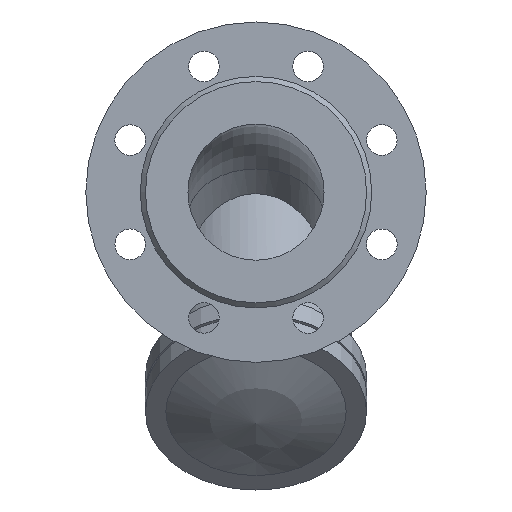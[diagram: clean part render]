
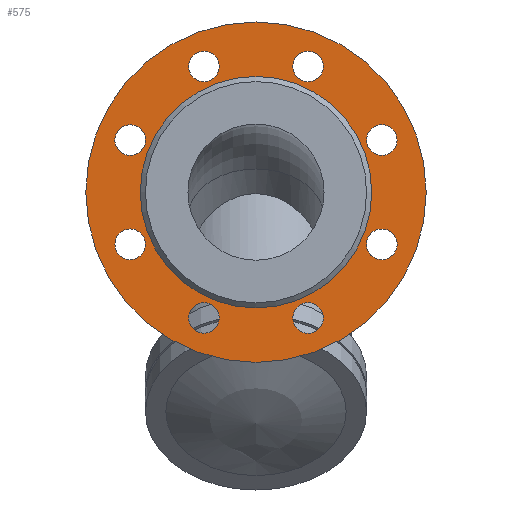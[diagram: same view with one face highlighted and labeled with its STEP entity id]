
A CAD part, front view. The second image highlights one B-rep face of the part: STEP entity #575.
In plain terms, the highlighted planar face has unit normal (0, -1, 0).
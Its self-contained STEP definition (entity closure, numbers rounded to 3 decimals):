
#575=ADVANCED_FACE('',(#1234,#1236,#1238,#1240,#1242,#1244,#1246,#1248,#1250,#1252),
#1254,.T.);
#1234=FACE_BOUND('',#1235,.T.);
#1235=EDGE_LOOP('',(#1638));
#1236=FACE_BOUND('',#1237,.T.);
#1237=EDGE_LOOP('',(#1639));
#1238=FACE_BOUND('',#1239,.T.);
#1239=EDGE_LOOP('',(#1640));
#1240=FACE_BOUND('',#1241,.T.);
#1241=EDGE_LOOP('',(#1641));
#1242=FACE_BOUND('',#1243,.T.);
#1243=EDGE_LOOP('',(#1642));
#1244=FACE_BOUND('',#1245,.T.);
#1245=EDGE_LOOP('',(#1643));
#1246=FACE_BOUND('',#1247,.T.);
#1247=EDGE_LOOP('',(#1644));
#1248=FACE_BOUND('',#1249,.T.);
#1249=EDGE_LOOP('',(#1645));
#1250=FACE_BOUND('',#1251,.T.);
#1251=EDGE_LOOP('',(#1646));
#1252=FACE_BOUND('',#1253,.T.);
#1253=EDGE_LOOP('',(#1647));
#1254=PLANE('',#1255);
#1255=AXIS2_PLACEMENT_3D('',#1256,#1257,#1258);
#1256=CARTESIAN_POINT('',(0.,-152.,0.));
#1257=DIRECTION('',(0.,-1.,0.));
#1258=DIRECTION('',(0.,0.,1.));
#1638=ORIENTED_EDGE('',*,*,#1788,.F.);
#1639=ORIENTED_EDGE('',*,*,#1796,.T.);
#1640=ORIENTED_EDGE('',*,*,#1795,.T.);
#1641=ORIENTED_EDGE('',*,*,#1794,.T.);
#1642=ORIENTED_EDGE('',*,*,#1793,.T.);
#1643=ORIENTED_EDGE('',*,*,#1792,.T.);
#1644=ORIENTED_EDGE('',*,*,#1791,.T.);
#1645=ORIENTED_EDGE('',*,*,#1790,.T.);
#1646=ORIENTED_EDGE('',*,*,#1807,.T.);
#1647=ORIENTED_EDGE('',*,*,#1789,.T.);
#1788=EDGE_CURVE('',#2000,#2000,#2001,.T.);
#1789=EDGE_CURVE('',#2002,#2002,#2003,.F.);
#1790=EDGE_CURVE('',#2004,#2004,#2005,.F.);
#1791=EDGE_CURVE('',#2006,#2006,#2007,.F.);
#1792=EDGE_CURVE('',#2008,#2008,#2009,.F.);
#1793=EDGE_CURVE('',#2010,#2010,#2011,.F.);
#1794=EDGE_CURVE('',#2012,#2012,#2013,.F.);
#1795=EDGE_CURVE('',#2014,#2014,#2015,.F.);
#1796=EDGE_CURVE('',#2016,#2016,#2017,.F.);
#1807=EDGE_CURVE('',#2038,#2038,#2039,.T.);
#2000=VERTEX_POINT('',#3328);
#2001=CIRCLE('',#3329,100.);
#2002=VERTEX_POINT('',#3333);
#2003=CIRCLE('',#3334,9.);
#2004=VERTEX_POINT('',#3338);
#2005=CIRCLE('',#3339,9.);
#2006=VERTEX_POINT('',#3343);
#2007=CIRCLE('',#3344,9.);
#2008=VERTEX_POINT('',#3348);
#2009=CIRCLE('',#3349,9.);
#2010=VERTEX_POINT('',#3353);
#2011=CIRCLE('',#3354,9.);
#2012=VERTEX_POINT('',#3358);
#2013=CIRCLE('',#3359,9.);
#2014=VERTEX_POINT('',#3363);
#2015=CIRCLE('',#3364,9.);
#2016=VERTEX_POINT('',#3368);
#2017=CIRCLE('',#3369,9.);
#2038=VERTEX_POINT('',#3423);
#2039=CIRCLE('',#3424,68.);
#3328=CARTESIAN_POINT('',(0.,-152.,100.));
#3329=AXIS2_PLACEMENT_3D('',#3330,#3331,#3332);
#3330=CARTESIAN_POINT('',(0.,-152.,0.));
#3331=DIRECTION('',(0.,1.,0.));
#3332=DIRECTION('',(0.,0.,1.));
#3333=CARTESIAN_POINT('',(-21.615,-152.,73.91));
#3334=AXIS2_PLACEMENT_3D('',#3335,#3336,#3337);
#3335=CARTESIAN_POINT('',(-30.615,-152.,73.91));
#3336=DIRECTION('',(0.,-1.,0.));
#3337=DIRECTION('',(1.,0.,0.));
#3338=CARTESIAN_POINT('',(-67.546,-152.,36.979));
#3339=AXIS2_PLACEMENT_3D('',#3340,#3341,#3342);
#3340=CARTESIAN_POINT('',(-73.91,-152.,30.615));
#3341=DIRECTION('',(0.,-1.,0.));
#3342=DIRECTION('',(0.707,0.,0.707));
#3343=CARTESIAN_POINT('',(-73.91,-152.,-21.615));
#3344=AXIS2_PLACEMENT_3D('',#3345,#3346,#3347);
#3345=CARTESIAN_POINT('',(-73.91,-152.,-30.615));
#3346=DIRECTION('',(0.,-1.,0.));
#3347=DIRECTION('',(0.,0.,1.));
#3348=CARTESIAN_POINT('',(-36.979,-152.,-67.546));
#3349=AXIS2_PLACEMENT_3D('',#3350,#3351,#3352);
#3350=CARTESIAN_POINT('',(-30.615,-152.,-73.91));
#3351=DIRECTION('',(0.,-1.,0.));
#3352=DIRECTION('',(-0.707,0.,0.707));
#3353=CARTESIAN_POINT('',(21.615,-152.,-73.91));
#3354=AXIS2_PLACEMENT_3D('',#3355,#3356,#3357);
#3355=CARTESIAN_POINT('',(30.615,-152.,-73.91));
#3356=DIRECTION('',(0.,-1.,0.));
#3357=DIRECTION('',(-1.,0.,0.));
#3358=CARTESIAN_POINT('',(67.546,-152.,-36.979));
#3359=AXIS2_PLACEMENT_3D('',#3360,#3361,#3362);
#3360=CARTESIAN_POINT('',(73.91,-152.,-30.615));
#3361=DIRECTION('',(0.,-1.,0.));
#3362=DIRECTION('',(-0.707,0.,-0.707));
#3363=CARTESIAN_POINT('',(73.91,-152.,21.615));
#3364=AXIS2_PLACEMENT_3D('',#3365,#3366,#3367);
#3365=CARTESIAN_POINT('',(73.91,-152.,30.615));
#3366=DIRECTION('',(0.,-1.,0.));
#3367=DIRECTION('',(0.,0.,-1.));
#3368=CARTESIAN_POINT('',(36.979,-152.,67.546));
#3369=AXIS2_PLACEMENT_3D('',#3370,#3371,#3372);
#3370=CARTESIAN_POINT('',(30.615,-152.,73.91));
#3371=DIRECTION('',(0.,-1.,0.));
#3372=DIRECTION('',(0.707,0.,-0.707));
#3423=CARTESIAN_POINT('',(0.,-152.,68.));
#3424=AXIS2_PLACEMENT_3D('',#3425,#3426,#3427);
#3425=CARTESIAN_POINT('',(0.,-152.,0.));
#3426=DIRECTION('',(0.,1.,0.));
#3427=DIRECTION('',(0.,0.,1.));
